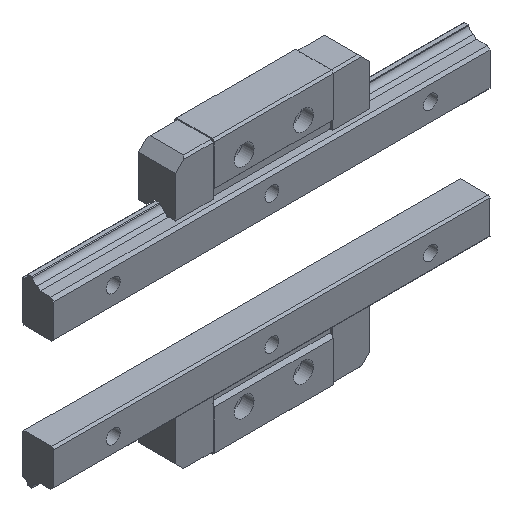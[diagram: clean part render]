
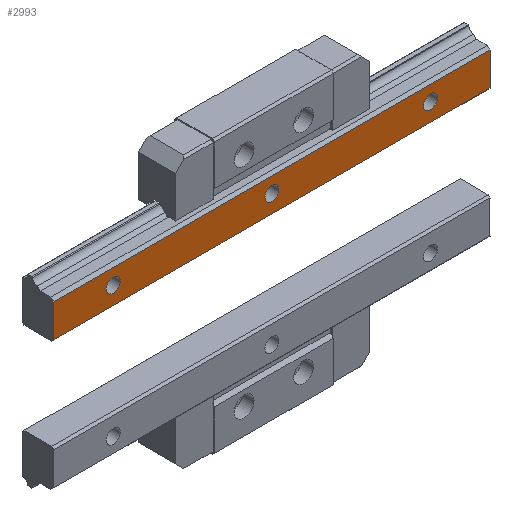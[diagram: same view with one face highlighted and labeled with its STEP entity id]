
A CAD part, isometric view. The second image highlights one B-rep face of the part: STEP entity #2993.
In plain terms, the highlighted planar face has unit normal (0, -1, 0).
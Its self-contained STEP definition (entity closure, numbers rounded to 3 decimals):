
#84=CIRCLE('',#3218,1.75);
#85=CIRCLE('',#3219,1.75);
#86=CIRCLE('',#3220,1.75);
#164=ORIENTED_EDGE('',*,*,#990,.F.);
#165=ORIENTED_EDGE('',*,*,#991,.F.);
#166=ORIENTED_EDGE('',*,*,#992,.F.);
#167=ORIENTED_EDGE('',*,*,#993,.T.);
#168=ORIENTED_EDGE('',*,*,#994,.F.);
#169=ORIENTED_EDGE('',*,*,#995,.F.);
#170=ORIENTED_EDGE('',*,*,#988,.T.);
#988=EDGE_CURVE('',#1401,#1400,#1692,.T.);
#990=EDGE_CURVE('',#1402,#1402,#84,.T.);
#991=EDGE_CURVE('',#1403,#1403,#85,.T.);
#992=EDGE_CURVE('',#1404,#1404,#86,.T.);
#993=EDGE_CURVE('',#1400,#1405,#1694,.T.);
#994=EDGE_CURVE('',#1406,#1405,#1695,.T.);
#995=EDGE_CURVE('',#1401,#1406,#1696,.T.);
#1400=VERTEX_POINT('',#4324);
#1401=VERTEX_POINT('',#4326);
#1402=VERTEX_POINT('',#4330);
#1403=VERTEX_POINT('',#4332);
#1404=VERTEX_POINT('',#4334);
#1405=VERTEX_POINT('',#4336);
#1406=VERTEX_POINT('',#4338);
#1692=LINE('',#4325,#2038);
#1694=LINE('',#4335,#2040);
#1695=LINE('',#4337,#2041);
#1696=LINE('',#4339,#2042);
#2038=VECTOR('',#3478,1000.);
#2040=VECTOR('',#3488,1000.);
#2041=VECTOR('',#3489,1000.);
#2042=VECTOR('',#3490,1000.);
#2379=EDGE_LOOP('',(#164));
#2380=EDGE_LOOP('',(#165));
#2381=EDGE_LOOP('',(#166));
#2382=EDGE_LOOP('',(#167,#168,#169,#170));
#2617=FACE_BOUND('',#2379,.T.);
#2618=FACE_BOUND('',#2380,.T.);
#2619=FACE_BOUND('',#2381,.T.);
#2620=FACE_BOUND('',#2382,.T.);
#2857=PLANE('',#3217);
#2993=ADVANCED_FACE('',(#2617,#2618,#2619,#2620),#2857,.F.);
#3217=AXIS2_PLACEMENT_3D('',#4328,#3480,#3481);
#3218=AXIS2_PLACEMENT_3D('',#4329,#3482,#3483);
#3219=AXIS2_PLACEMENT_3D('',#4331,#3484,#3485);
#3220=AXIS2_PLACEMENT_3D('',#4333,#3486,#3487);
#3478=DIRECTION('',(0.,0.,-1.));
#3480=DIRECTION('',(0.,1.,0.));
#3481=DIRECTION('',(-1.,0.,0.));
#3482=DIRECTION('',(0.,-1.,0.));
#3483=DIRECTION('',(0.,0.,-1.));
#3484=DIRECTION('',(0.,-1.,0.));
#3485=DIRECTION('',(0.,0.,-1.));
#3486=DIRECTION('',(0.,-1.,0.));
#3487=DIRECTION('',(0.,0.,-1.));
#3488=DIRECTION('',(1.,0.,0.));
#3489=DIRECTION('',(0.,0.,-1.));
#3490=DIRECTION('',(1.,0.,0.));
#4324=CARTESIAN_POINT('',(0.5,0.,-95.));
#4325=CARTESIAN_POINT('',(0.5,0.,15.));
#4326=CARTESIAN_POINT('',(0.5,0.,15.));
#4328=CARTESIAN_POINT('',(0.5,0.,15.));
#4329=CARTESIAN_POINT('',(5.,0.,-40.));
#4330=CARTESIAN_POINT('',(5.,0.,-41.75));
#4331=CARTESIAN_POINT('',(5.,0.,-80.));
#4332=CARTESIAN_POINT('',(5.,0.,-81.75));
#4333=CARTESIAN_POINT('',(5.,0.,0.));
#4334=CARTESIAN_POINT('',(5.,0.,-1.75));
#4335=CARTESIAN_POINT('',(0.5,0.,-95.));
#4336=CARTESIAN_POINT('',(8.8,0.,-95.));
#4337=CARTESIAN_POINT('',(8.8,0.,15.));
#4338=CARTESIAN_POINT('',(8.8,0.,15.));
#4339=CARTESIAN_POINT('',(0.5,0.,15.));
